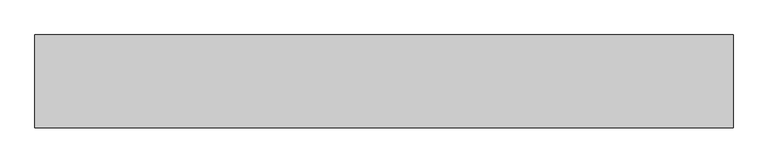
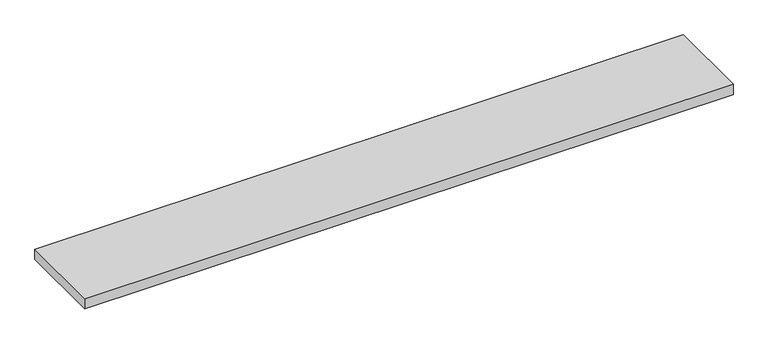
"""IFC4 building model written with IfcOpenShell, lengths in millimetres: proxy geometry, Vita_Решетка : РАП_Алюминиевая продольная."""

from ifc_helpers import new_model, si_unit, frame, origin, place, context, project, spatial, polyline, outline, extrude, source, transform, mapped, element, save


def mechanical_equipment_312a6962(model_context):
    return source(origin(), model_context, "Body", "SweptSolid", [
        extrude(outline(polyline([(-599.0, -112.8), (599.0, -112.8), (599.0, -272.2), (-599.0, -272.2), (-599.0, -112.8)])), frame((0.0, 0.0, 209.83), z_axis=(0.0, 0.0, 1.0), x_axis=(1.0, 0.0, 0.0)), (0.0, 0.0, 1.0), 20.17),
    ])


if __name__ == "__main__":
    model = new_model("IFC4")
    model_context = context("Model", 3, world=origin())
    ifc_project = project(units=[si_unit("LENGTHUNIT", "METRE", prefix="MILLI")], contexts=[model_context])
    site = spatial("IfcSite", under=ifc_project)
    building = spatial("IfcBuilding", under=site)
    placement = place(None, origin())
    mechanical_equipment_shape = mechanical_equipment_312a6962(model_context)
    element("IfcBuildingElementProxy", 1, Name="Vita_Решетка : РАП_Алюминиевая продольная", ObjectType="Vita_Решетка : РАП_Алюминиевая продольная", at=placement, inside=building, context=model_context, shape_type="MappedRepresentation", body=[
        mapped(mechanical_equipment_shape, transform((0.0, 0.0, 0.0), x_axis=(1.0, 0.0, 0.0), y_axis=(0.0, 1.0, 0.0), z_axis=(0.0, 0.0, 1.0))),
    ])
    save(model, "model.ifc")
